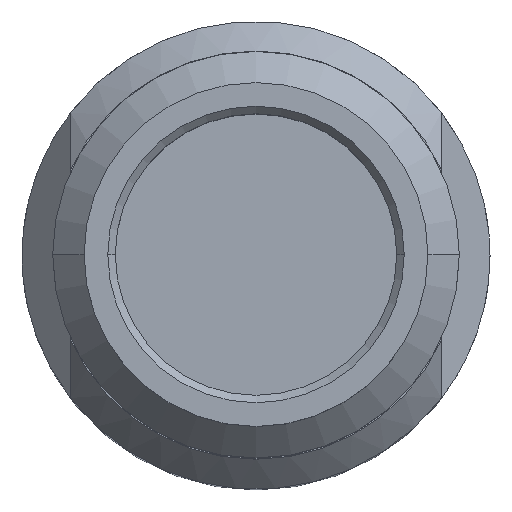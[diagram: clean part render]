
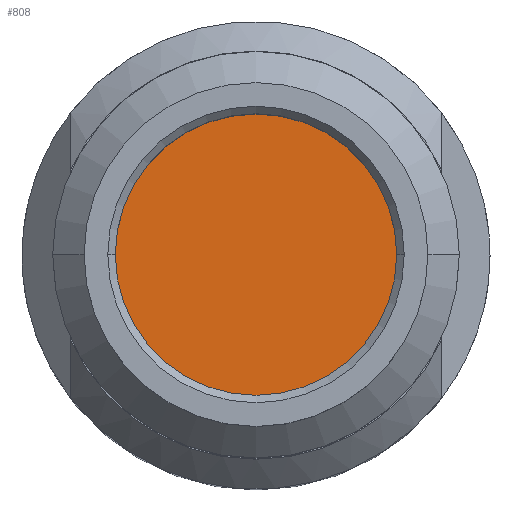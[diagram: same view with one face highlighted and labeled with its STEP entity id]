
A CAD part, top view. The second image highlights one B-rep face of the part: STEP entity #808.
In plain terms, the highlighted planar face has unit normal (0, 0, 1).
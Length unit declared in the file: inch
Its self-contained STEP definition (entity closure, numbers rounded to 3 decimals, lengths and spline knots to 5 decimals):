
#253 = EDGE_CURVE ( 'NONE', #2694, #1313, #2910, .T. ) ;
#260 = ORIENTED_EDGE ( 'NONE', *, *, #253, .T. ) ;
#565 = CARTESIAN_POINT ( 'NONE',  ( 0., 0., -0.11745 ) ) ;
#808 = ADVANCED_FACE ( 'NONE', ( #3110 ), #3585, .T. ) ;
#953 = DIRECTION ( 'NONE',  ( 0., -1., 0. ) ) ;
#1009 = AXIS2_PLACEMENT_3D ( 'NONE', #565, #2926, #953 ) ;
#1108 = EDGE_CURVE ( 'NONE', #1313, #2694, #3098, .T. ) ;
#1313 = VERTEX_POINT ( 'NONE', #3895 ) ;
#1614 = CARTESIAN_POINT ( 'NONE',  ( 0., 0., -0.11745 ) ) ;
#1659 = DIRECTION ( 'NONE',  ( 0., 0., 1. ) ) ;
#1813 = CARTESIAN_POINT ( 'NONE',  ( 0.09415, 0., -0.11745 ) ) ;
#2199 = DIRECTION ( 'NONE',  ( 0., -1., 0. ) ) ;
#2234 = EDGE_LOOP ( 'NONE', ( #260, #3309 ) ) ;
#2521 = AXIS2_PLACEMENT_3D ( 'NONE', #3820, #4151, #2199 ) ;
#2535 = AXIS2_PLACEMENT_3D ( 'NONE', #1614, #1659, #3894 ) ;
#2694 = VERTEX_POINT ( 'NONE', #1813 ) ;
#2910 = CIRCLE ( 'NONE', #1009, 0.09415 ) ;
#2926 = DIRECTION ( 'NONE',  ( 0., 0., 1. ) ) ;
#3098 = CIRCLE ( 'NONE', #2521, 0.09415 ) ;
#3110 = FACE_OUTER_BOUND ( 'NONE', #2234, .T. ) ;
#3309 = ORIENTED_EDGE ( 'NONE', *, *, #1108, .T. ) ;
#3585 = PLANE ( 'NONE',  #2535 ) ;
#3820 = CARTESIAN_POINT ( 'NONE',  ( 0., 0., -0.11745 ) ) ;
#3894 = DIRECTION ( 'NONE',  ( 0., -1., 0. ) ) ;
#3895 = CARTESIAN_POINT ( 'NONE',  ( -0.09415, 0., -0.11745 ) ) ;
#4151 = DIRECTION ( 'NONE',  ( 0., 0., 1. ) ) ;
